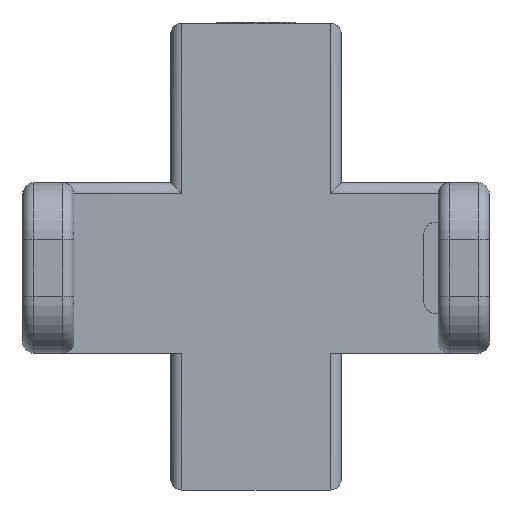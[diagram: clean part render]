
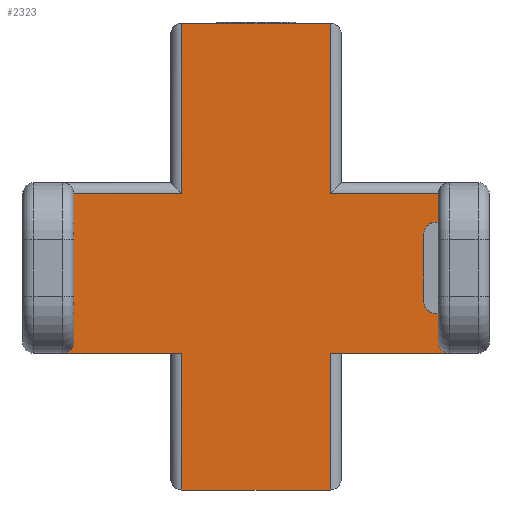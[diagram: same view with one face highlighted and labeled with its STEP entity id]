
A CAD part, left-side view. The second image highlights one B-rep face of the part: STEP entity #2323.
In plain terms, the highlighted planar face has unit normal (-1, 0, 0).
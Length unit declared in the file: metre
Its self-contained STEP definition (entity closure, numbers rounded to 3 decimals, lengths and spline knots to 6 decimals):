
#171=CIRCLE('',#2513,0.001);
#172=CIRCLE('',#2514,0.001);
#395=ORIENTED_EDGE('',*,*,#1097,.F.);
#396=ORIENTED_EDGE('',*,*,#1095,.F.);
#397=ORIENTED_EDGE('',*,*,#1098,.F.);
#398=ORIENTED_EDGE('',*,*,#1099,.F.);
#399=ORIENTED_EDGE('',*,*,#1100,.T.);
#400=ORIENTED_EDGE('',*,*,#1101,.F.);
#401=ORIENTED_EDGE('',*,*,#1102,.F.);
#402=ORIENTED_EDGE('',*,*,#1031,.F.);
#403=ORIENTED_EDGE('',*,*,#1059,.T.);
#404=ORIENTED_EDGE('',*,*,#1033,.F.);
#405=ORIENTED_EDGE('',*,*,#1103,.F.);
#406=ORIENTED_EDGE('',*,*,#1104,.F.);
#407=ORIENTED_EDGE('',*,*,#1006,.F.);
#408=ORIENTED_EDGE('',*,*,#1105,.F.);
#1006=EDGE_CURVE('',#1360,#1361,#1566,.T.);
#1031=EDGE_CURVE('',#1384,#1385,#1588,.T.);
#1033=EDGE_CURVE('',#1386,#1387,#1589,.F.);
#1059=EDGE_CURVE('',#1384,#1387,#1604,.T.);
#1095=EDGE_CURVE('',#1441,#1442,#1632,.T.);
#1097=EDGE_CURVE('',#1442,#1443,#1634,.F.);
#1098=EDGE_CURVE('',#1444,#1441,#1635,.T.);
#1099=EDGE_CURVE('',#1445,#1444,#1636,.F.);
#1100=EDGE_CURVE('',#1445,#1446,#1637,.T.);
#1101=EDGE_CURVE('',#1447,#1446,#171,.F.);
#1102=EDGE_CURVE('',#1385,#1447,#1638,.T.);
#1103=EDGE_CURVE('',#1448,#1386,#1639,.T.);
#1104=EDGE_CURVE('',#1361,#1448,#172,.F.);
#1105=EDGE_CURVE('',#1443,#1360,#1640,.F.);
#1360=VERTEX_POINT('',#3568);
#1361=VERTEX_POINT('',#3570);
#1384=VERTEX_POINT('',#3620);
#1385=VERTEX_POINT('',#3622);
#1386=VERTEX_POINT('',#3626);
#1387=VERTEX_POINT('',#3627);
#1441=VERTEX_POINT('',#3751);
#1442=VERTEX_POINT('',#3753);
#1443=VERTEX_POINT('',#3757);
#1444=VERTEX_POINT('',#3759);
#1445=VERTEX_POINT('',#3761);
#1446=VERTEX_POINT('',#3763);
#1447=VERTEX_POINT('',#3765);
#1448=VERTEX_POINT('',#3768);
#1566=LINE('',#3569,#1756);
#1588=LINE('',#3621,#1778);
#1589=LINE('',#3625,#1779);
#1604=LINE('',#3678,#1794);
#1632=LINE('',#3752,#1822);
#1634=LINE('',#3756,#1824);
#1635=LINE('',#3758,#1825);
#1636=LINE('',#3760,#1826);
#1637=LINE('',#3762,#1827);
#1638=LINE('',#3766,#1828);
#1639=LINE('',#3767,#1829);
#1640=LINE('',#3770,#1830);
#1756=VECTOR('',#2781,1.);
#1778=VECTOR('',#2815,1.);
#1779=VECTOR('',#2820,1.);
#1794=VECTOR('',#2865,1.);
#1822=VECTOR('',#2919,1.);
#1824=VECTOR('',#2923,1.);
#1825=VECTOR('',#2924,1.);
#1826=VECTOR('',#2925,1.);
#1827=VECTOR('',#2926,1.);
#1828=VECTOR('',#2929,1.);
#1829=VECTOR('',#2930,1.);
#1830=VECTOR('',#2933,1.);
#1957=EDGE_LOOP('',(#395,#396,#397,#398,#399,#400,#401,#402,#403,#404,#405,
#406,#407,#408));
#2121=FACE_BOUND('',#1957,.T.);
#2275=PLANE('',#2512);
#2323=ADVANCED_FACE('',(#2121),#2275,.T.);
#2512=AXIS2_PLACEMENT_3D('',#3755,#2921,#2922);
#2513=AXIS2_PLACEMENT_3D('',#3764,#2927,#2928);
#2514=AXIS2_PLACEMENT_3D('',#3769,#2931,#2932);
#2781=DIRECTION('',(0.,0.,-1.));
#2815=DIRECTION('',(0.,0.,1.));
#2820=DIRECTION('',(0.,0.,1.));
#2865=DIRECTION('',(0.,-1.,0.));
#2919=DIRECTION('',(0.,-1.,0.));
#2921=DIRECTION('',(-1.,0.,0.));
#2922=DIRECTION('',(0.,0.,1.));
#2923=DIRECTION('',(0.,0.,1.));
#2924=DIRECTION('',(0.,0.,1.));
#2925=DIRECTION('',(0.,1.,0.));
#2926=DIRECTION('',(0.,0.,-1.));
#2927=DIRECTION('',(1.,0.,0.));
#2928=DIRECTION('',(0.,0.,1.));
#2929=DIRECTION('',(0.,1.,0.));
#2930=DIRECTION('',(0.,1.,0.));
#2931=DIRECTION('',(1.,0.,0.));
#2932=DIRECTION('',(0.,0.,1.));
#2933=DIRECTION('',(0.,1.,0.));
#3568=CARTESIAN_POINT('',(0.,-0.077,0.026));
#3569=CARTESIAN_POINT('',(0.,-0.077,0.027));
#3570=CARTESIAN_POINT('',(0.,-0.077,0.013));
#3620=CARTESIAN_POINT('',(0.,-0.0545,0.));
#3621=CARTESIAN_POINT('',(0.,-0.0545,0.0205));
#3622=CARTESIAN_POINT('',(0.,-0.0545,0.012));
#3625=CARTESIAN_POINT('',(0.,-0.0675,0.));
#3626=CARTESIAN_POINT('',(0.,-0.0675,0.012));
#3627=CARTESIAN_POINT('',(0.,-0.0675,0.));
#3678=CARTESIAN_POINT('',(0.,-0.0535,0.));
#3751=CARTESIAN_POINT('',(0.,-0.0545,0.041));
#3752=CARTESIAN_POINT('',(0.,-0.0535,0.041));
#3753=CARTESIAN_POINT('',(0.,-0.0675,0.041));
#3755=CARTESIAN_POINT('',(0.,-0.0535,0.0205));
#3756=CARTESIAN_POINT('',(0.,-0.0675,0.));
#3757=CARTESIAN_POINT('',(0.,-0.0675,0.026));
#3758=CARTESIAN_POINT('',(0.,-0.0545,0.0205));
#3759=CARTESIAN_POINT('',(0.,-0.0545,0.026));
#3760=CARTESIAN_POINT('',(0.,-0.0535,0.026));
#3761=CARTESIAN_POINT('',(0.,-0.045,0.026));
#3762=CARTESIAN_POINT('',(0.,-0.045,0.027));
#3763=CARTESIAN_POINT('',(0.,-0.045,0.013));
#3764=CARTESIAN_POINT('',(0.,-0.044,0.013));
#3765=CARTESIAN_POINT('',(0.,-0.044,0.012));
#3766=CARTESIAN_POINT('',(0.,-0.061,0.012));
#3767=CARTESIAN_POINT('',(0.,-0.061,0.012));
#3768=CARTESIAN_POINT('',(0.,-0.078,0.012));
#3769=CARTESIAN_POINT('',(0.,-0.078,0.013));
#3770=CARTESIAN_POINT('',(0.,-0.0535,0.026));
